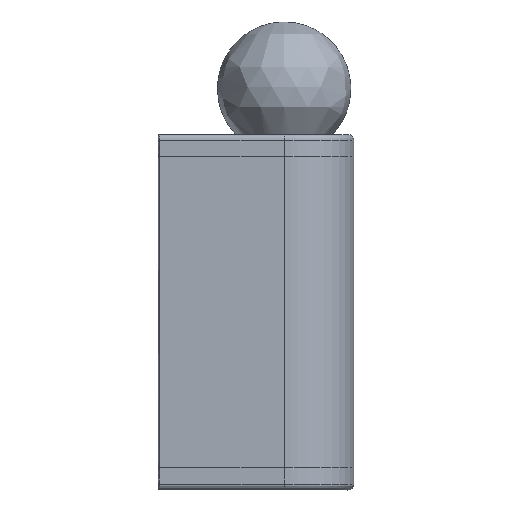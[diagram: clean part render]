
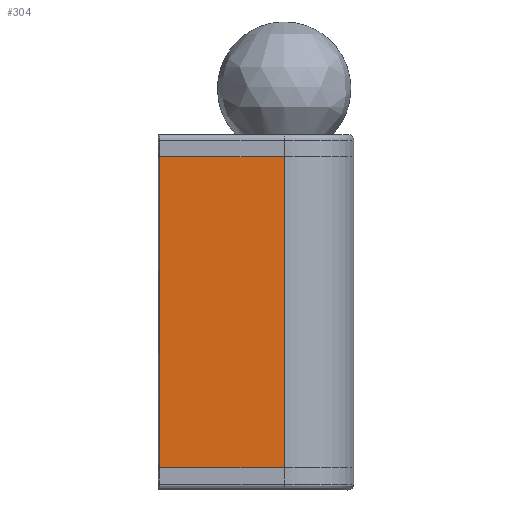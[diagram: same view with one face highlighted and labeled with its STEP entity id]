
A CAD part, left-side view. The second image highlights one B-rep face of the part: STEP entity #304.
In plain terms, the highlighted planar face has unit normal (-1, 0, 0).
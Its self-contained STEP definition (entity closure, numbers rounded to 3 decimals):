
#20=B_SPLINE_CURVE_WITH_KNOTS('',1,(#6066,#6067),.UNSPECIFIED.,.F.,.F.,
(2,2),(0.,105.),.UNSPECIFIED.);
#22=B_SPLINE_CURVE_WITH_KNOTS('',1,(#6076,#6077),.UNSPECIFIED.,.F.,.F.,
(2,2),(-105.,0.),.UNSPECIFIED.);
#23=B_SPLINE_CURVE_WITH_KNOTS('',1,(#6093,#6094),.UNSPECIFIED.,.F.,.F.,
(2,2),(0.,42.),.UNSPECIFIED.);
#25=B_SPLINE_CURVE_WITH_KNOTS('',1,(#6117,#6118),.UNSPECIFIED.,.F.,.F.,
(2,2),(-42.,0.),.UNSPECIFIED.);
#304=ADVANCED_FACE('',(#425),#2067,.T.);
#425=FACE_OUTER_BOUND('',#546,.T.);
#546=EDGE_LOOP('',(#1107,#1108,#1109,#1110));
#1107=ORIENTED_EDGE('',*,*,#1316,.F.);
#1108=ORIENTED_EDGE('',*,*,#1333,.F.);
#1109=ORIENTED_EDGE('',*,*,#1312,.F.);
#1110=ORIENTED_EDGE('',*,*,#1323,.F.);
#1312=EDGE_CURVE('',#1979,#1980,#20,.T.);
#1316=EDGE_CURVE('',#1986,#1985,#22,.T.);
#1323=EDGE_CURVE('',#1985,#1979,#23,.T.);
#1333=EDGE_CURVE('',#1980,#1986,#25,.T.);
#1979=VERTEX_POINT('',#5903);
#1980=VERTEX_POINT('',#5904);
#1985=VERTEX_POINT('',#5909);
#1986=VERTEX_POINT('',#5910);
#2067=PLANE('',#2098);
#2098=AXIS2_PLACEMENT_3D('',#5892,#2113,$);
#2113=DIRECTION('',(-1.,0.,0.));
#5892=CARTESIAN_POINT('',(-23.528,32.397,113.12));
#5903=CARTESIAN_POINT('',(-23.525,-9.603,113.119));
#5904=CARTESIAN_POINT('',(-23.526,-9.603,8.119));
#5909=CARTESIAN_POINT('',(-23.528,32.397,113.12));
#5910=CARTESIAN_POINT('',(-23.528,32.397,8.12));
#6066=CARTESIAN_POINT('',(-23.525,-9.603,113.119));
#6067=CARTESIAN_POINT('',(-23.526,-9.603,8.119));
#6076=CARTESIAN_POINT('',(-23.528,32.397,8.12));
#6077=CARTESIAN_POINT('',(-23.528,32.397,113.12));
#6093=CARTESIAN_POINT('',(-23.528,32.397,113.12));
#6094=CARTESIAN_POINT('',(-23.525,-9.603,113.119));
#6117=CARTESIAN_POINT('',(-23.526,-9.603,8.119));
#6118=CARTESIAN_POINT('',(-23.528,32.397,8.12));
